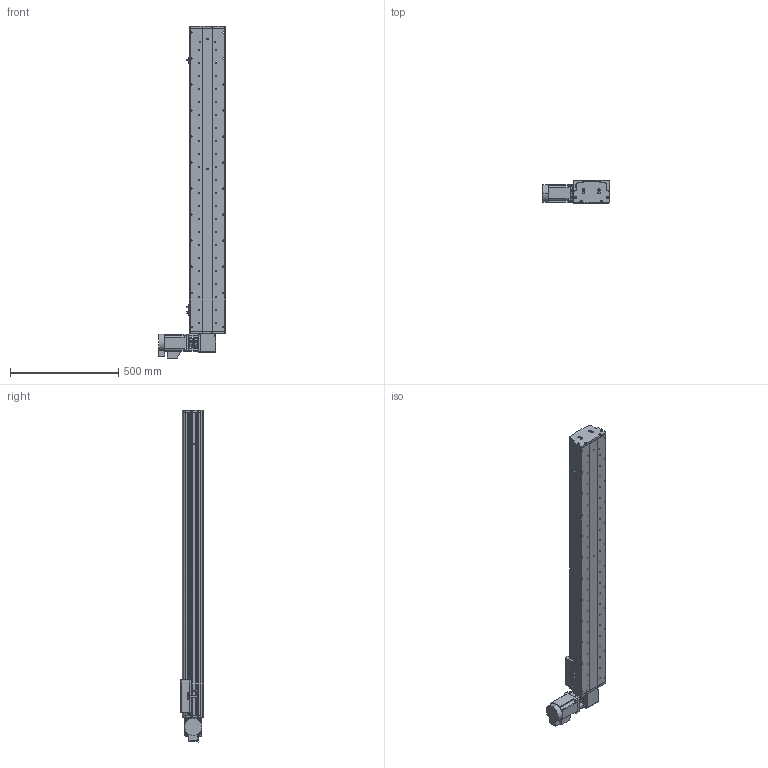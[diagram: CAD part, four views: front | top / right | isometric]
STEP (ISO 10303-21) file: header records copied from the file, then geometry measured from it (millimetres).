
FILE_DESCRIPTION (( 'STEP AP214' ), '1' );
FILE_NAME ('KSD165B-S1150-MRT-CM.STEP', '2017-10-17T01:37:06', ( '微软用户' ), ( '微软中国' ), 'SwSTEP 2.0', 'SolidWorks 2014', '' );
FILE_SCHEMA (( 'AUTOMOTIVE_DESIGN' ));
Length unit declared in the file: millimetre
Products named in the file (16): KSD165B-S1150-MRT-CM; 165宽马达安装板同步带左-改; KSD165模组-同步带防尘盖1-1150行程; KSD165模组同步带底板-1150行程; 拸秶雄ん750W侜督萇儂; 165宽安装板同步带带电机座750W; C39ㄜ1419WP; U倰嫖萇假蚾璃; U倰嫖萇EEㄜSX672; 覜茼え68遵圉猾敕; KSD165模组-同步带-防撞垫2; KSD165模组同步带-防撞垫1; KSD165耀郪-ヶ傷啣1-肮祭湍; KSD165模组-后端板1-同步带; 130宽马达安装板1-带电机座750W（1）; KSD165模组-同步带滑动座-最新版
Assembly tree (19 placements, depth 2):
  KSD165B-S1150-MRT-CM
    KSD165模组-同步带滑动座-最新版
    130宽马达安装板1-带电机座750W（1）
    KSD165模组-后端板1-同步带
    KSD165耀郪-ヶ傷啣1-肮祭湍
    KSD165模组同步带-防撞垫1
    KSD165模组-同步带-防撞垫2
    覜茼え68遵圉猾敕
    U倰嫖萇EEㄜSX672  x3
    U倰嫖萇假蚾璃  x3
    C39ㄜ1419WP
    165宽安装板同步带带电机座750W
    拸秶雄ん750W侜督萇儂
    KSD165模组同步带底板-1150行程
    KSD165模组-同步带防尘盖1-1150行程
    165宽马达安装板同步带左-改
Bounding box: 307.5 x 104 x 1531.06 mm (x, y, z)
Volume: 8563504 mm3; surface area: 1940896.3 mm2
Topology: 20 solids, 21 shells, 1536 faces, 4278 edges, 2773 vertices
Faces by surface type: cylinder 857, plane 585, cone 94
Entity records: 49275 total; most frequent: CARTESIAN_POINT 10315, DIRECTION 7644, ORIENTED_EDGE 7208, EDGE_CURVE 3604, AXIS2_PLACEMENT_3D 2918, VERTEX_POINT 2365, VECTOR 1808, LINE 1808
